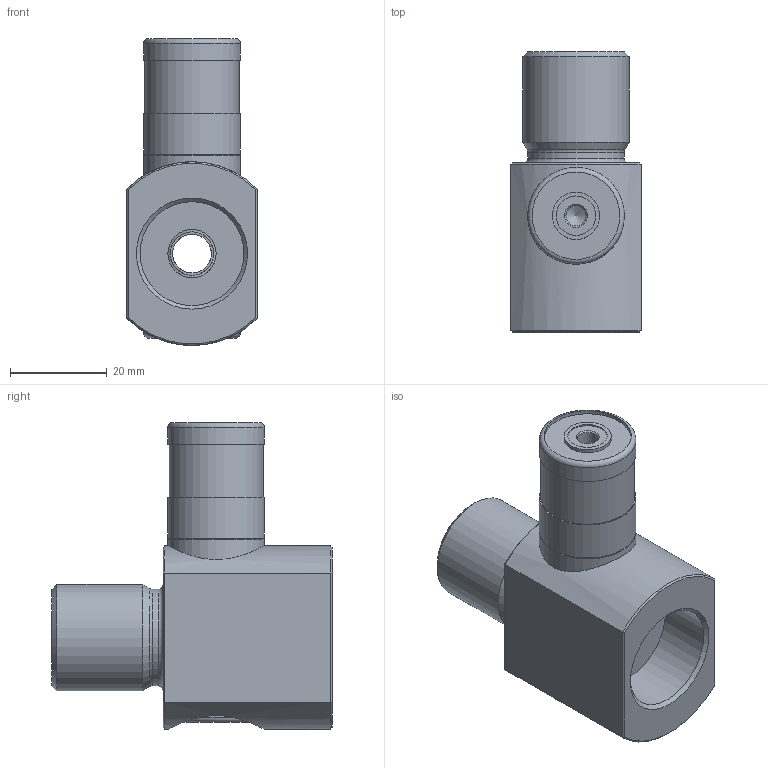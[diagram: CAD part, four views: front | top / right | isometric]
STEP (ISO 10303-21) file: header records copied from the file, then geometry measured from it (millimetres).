
FILE_DESCRIPTION(('STEP AP242'),'1');
FILE_NAME('A.6008 + MA.7020 Feststellpatrone mit Zylinderaufnahme.stp','2026-07-01T13:22:04',(' '),(' '),'Spatial InterOp 3D',' ',' ');
FILE_SCHEMA(('AP242_MANAGED_MODEL_BASED_3D_ENGINEERING_MIM_LF {1 0 10303 442 1 1 4}'));
Length unit declared in the file: millimetre
Products named in the file (3): A.6008 + MA.7020 Feststellpatrone mit Zylinderaufnahme; MV.5020.01; A.6008 Feststellpatrone
Assembly tree (2 placements, depth 2):
  A.6008 + MA.7020 Feststellpatrone mit Zylinderaufnahme
    MV.5020.01
    A.6008 Feststellpatrone
Bounding box: 27 x 58 x 63.5 mm (x, y, z)
Volume: 41696.7 mm3; surface area: 15233.6 mm2
Topology: 2 solids, 2 shells, 54 faces, 106 edges, 64 vertices
Faces by surface type: cylinder 20, plane 18, cone 12, torus 4
Full cylindrical faces by diameter (mm): 4.2 x2, 8 x2, 8.2 x1, 9 x2, 9.8 x1, 10 x1, 18.1 x1, 19.5 x1, 20 x5, 21.5 x1, 22 x1
Entity records: 2311 total; most frequent: CARTESIAN_POINT 676, DIRECTION 216, ORIENTED_EDGE 142, AXIS2_PLACEMENT_3D 102, EDGE_LOOP 100, FACE_OUTER_BOUND 76, EDGE_CURVE 71, VERTEX_POINT 60
